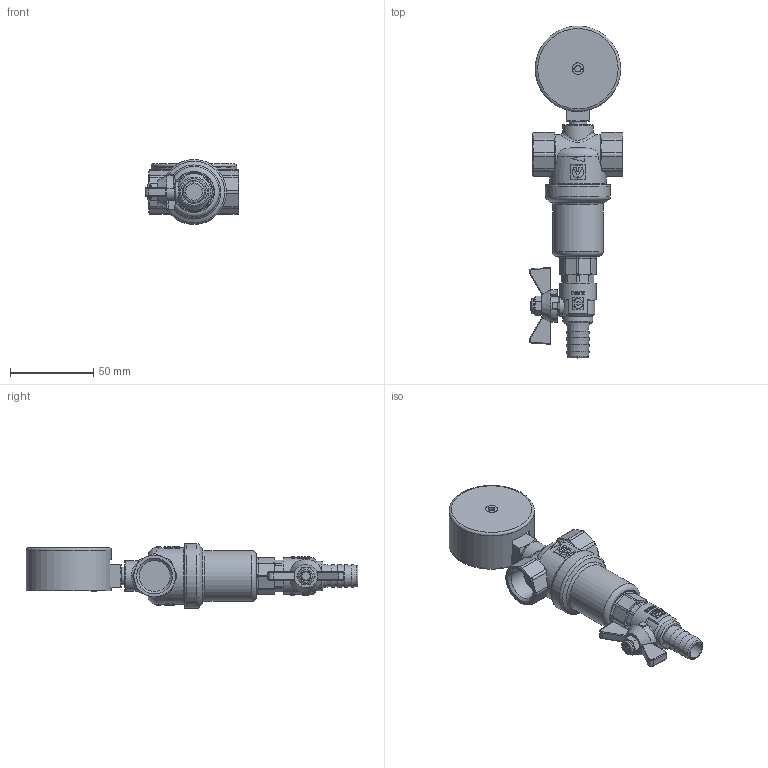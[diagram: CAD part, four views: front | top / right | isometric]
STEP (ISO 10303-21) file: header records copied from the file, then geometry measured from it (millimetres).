
FILE_DESCRIPTION(('STEP AP203'), '1');
FILE_NAME('VT.389.N.04', '', ('UNSPECIFIED'), ('UNSPECIFIED'), 'C3D Converter', 'C3D Toolkit', '');
FILE_SCHEMA(('CONFIG_CONTROL_DESIGN'));
Length unit declared in the file: millimetre
Products named in the file (1): ВР.061146.025.000 СБ
Bounding box: 56.3 x 199.3 x 39 mm (x, y, z)
Volume: 97845.6 mm3; surface area: 42924.4 mm2
Topology: 1 solids, 3 shells, 1001 faces, 2601 edges, 1683 vertices
Faces by surface type: plane 384, extrusion 310, cylinder 170, cone 85, torus 49, bspline 3
Full cylindrical faces by diameter (mm): 1 x1, 1.1 x1, 1.7 x2, 2.5 x3, 7.95 x1, 9.5 x1, 10 x1, 10.6 x1, 11 x1, 12.5 x1, 18 x1, 18.2 x1, 18.632 x2, 22 x1, 30.5 x1, 34 x1, 39 x1, 47.8 x1, 48 x1, 48.8 x1, 49.7 x1, 50.3 x1, 51.3 x1
Entity records: 44423 total; most frequent: CARTESIAN_POINT 21934, ORIENTED_EDGE 5054, DIRECTION 3720, EDGE_CURVE 2527, VERTEX_POINT 1673, VECTOR 1320, AXIS2_PLACEMENT_3D 1200, B_SPLINE_CURVE_WITH_KNOTS 1180
